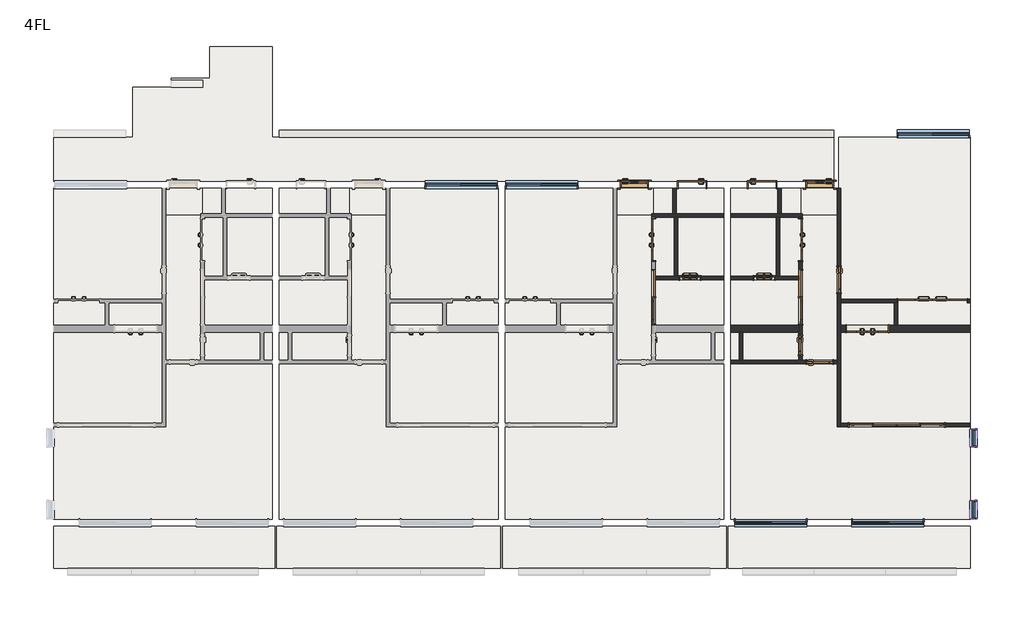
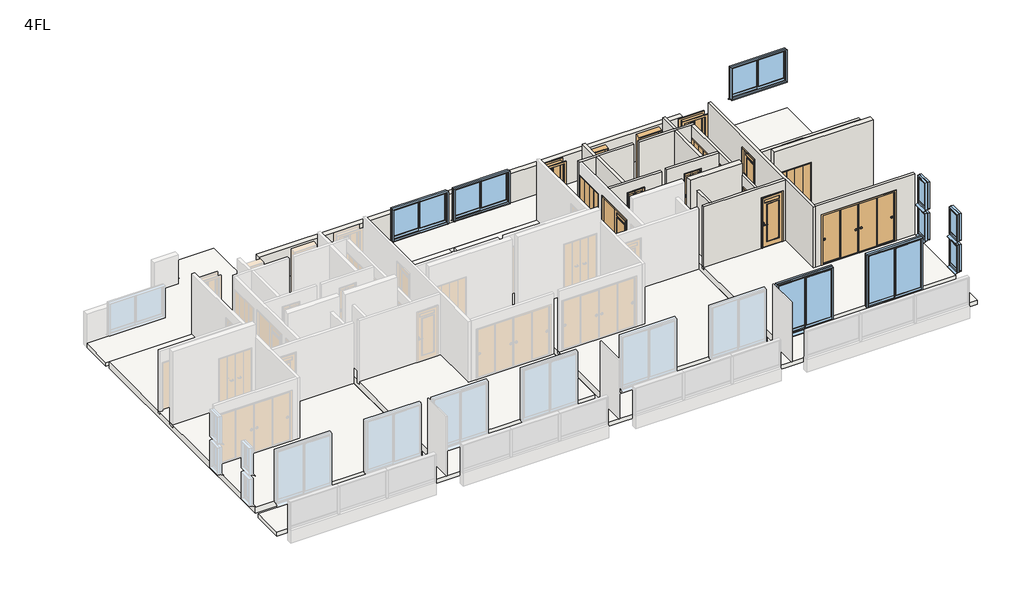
# One storey, part 3 of 3: 18 walls, 16 doors, 14 slabs, 9 windows.
"""IFC4 building model written with IfcOpenShell, lengths in millimetres."""

from ifc_helpers import new_model, si_unit, frame, origin, place, context, project, spatial, polyline, outline, extrude, faceted_brep, transform, mapped, element, save
from components import door_1200x2000_6a144d60, door_1200x2000_ebe1d490, door_1200x2000_99d19fb3, door_1600x2000_09a7ee27, door_1600x2000_1f5bdc43, door_2800x2000_04aa64cd, door_600x2000_6a266bef, door_600x2000_8ea70a65, door_600x2000_94bb9c3c, door_800x2000_a7d1584b, door_800x2000_13e9f519, door_800x2000_ccb03061, door_800x2000_010bfebf, w2000h2000_5dbb6d6a, w800h2000_1d97c4d4, w800h2000_0ab7d42c, window_2000x1200_fc91d1cf, window_2000x2000_f1ff98da, window_450x1000_e0a5e2da, window_450x1000_1cddc73c

model = new_model("IFC4")

# Units and contexts
model_context = context("Model", 3, world=origin())
ifc_project = project(units=[si_unit("LENGTHUNIT", "METRE", prefix="MILLI")], contexts=[model_context])

# Site, building, storey
site = spatial("IfcSite", under=ifc_project)
building = spatial("IfcBuilding", under=site)
storey = spatial("IfcBuildingStorey", under=building, Name="4FL", Elevation=10000.0)

# Doors
placement = place(None, origin())
door_1200x2000_shape = door_1200x2000_6a144d60(model_context)
element("IfcDoor", 1, ObjectType="木製折戸 : 1200x2000", at=placement, inside=storey, context=model_context, shape_type="MappedRepresentation", body=[
    mapped(door_1200x2000_shape, transform((6071.2812754, -7280.1171638, 10000.0), x_axis=(0.0, 1.0, 0.0), y_axis=(-1.0, 0.0, 0.0), z_axis=(0.0, 0.0, 1.0))),
])
door_1200x2000_2_shape = door_1200x2000_ebe1d490(model_context)
element("IfcDoor", 2, ObjectType="木製折戸 : 1200x2000", at=placement, inside=storey, context=model_context, shape_type="MappedRepresentation", body=[
    mapped(door_1200x2000_2_shape, transform((12183.7812754, -9820.1171638, 10100.0), x_axis=(1.0, 0.0, 0.0), y_axis=(0.0, 1.0, 0.0), z_axis=(0.0, 0.0, 1.0))),
])
door_1200x2000_3_shape = door_1200x2000_99d19fb3(model_context)
element("IfcDoor", 3, ObjectType="木製折戸 : 1200x2000", at=placement, inside=storey, context=model_context, shape_type="MappedRepresentation", body=[
    mapped(door_1200x2000_3_shape, transform((10271.2812754, -7280.1171638, 10000.0), x_axis=(0.0, 1.0, 0.0), y_axis=(-1.0, 0.0, 0.0), z_axis=(0.0, 0.0, 1.0))),
])
door_1600x2000_shape = door_1600x2000_09a7ee27(model_context)
element("IfcDoor", 4, ObjectType="片引戸CL2017 : 1600x2000", at=placement, inside=storey, context=model_context, shape_type="MappedRepresentation", body=[
    mapped(door_1600x2000_shape, transform((6071.2812754, -8920.1171638, 10100.0), x_axis=(0.0, -1.0, 0.0), y_axis=(1.0, 0.0, 0.0), z_axis=(0.0, 0.0, 1.0))),
])
door_1600x2000_2_shape = door_1600x2000_1f5bdc43(model_context)
element("IfcDoor", 5, ObjectType="片引戸CL2017 : 1600x2000", at=placement, inside=storey, context=model_context, shape_type="MappedRepresentation", body=[
    mapped(door_1600x2000_2_shape, transform((10271.2812754, -8920.1171638, 10100.0), x_axis=(0.0, -1.0, 0.0), y_axis=(1.0, 0.0, 0.0), z_axis=(0.0, 0.0, 1.0))),
])
door_2800x2000_shape = door_2800x2000_04aa64cd(model_context)
element("IfcDoor", 6, ObjectType="引違い 4 枚 2 溝_襖 : 2800x2000", at=placement, inside=storey, context=model_context, shape_type="MappedRepresentation", body=[
    mapped(door_2800x2000_shape, transform((13015.7457714, -12570.1171638, 10100.0), x_axis=(-1.0, 0.0, 0.0), y_axis=(0.0, -1.0, 0.0), z_axis=(0.0, 0.0, 1.0))),
])
door_600x2000_shape = door_600x2000_6a266bef(model_context)
element("IfcDoor", 7, ObjectType="浴室折戸 : 600x2000", at=placement, inside=storey, context=model_context, shape_type="MappedRepresentation", body=[
    mapped(door_600x2000_shape, transform((7111.2812754, -8370.1171638, 10100.0), x_axis=(1.0, 0.0, 0.0), y_axis=(0.0, 1.0, 0.0), z_axis=(0.0, 0.0, 1.0))),
])
door_600x2000_2_shape = door_600x2000_8ea70a65(model_context)
element("IfcDoor", 8, ObjectType="片開き戸CL2058 : 600x2000", at=placement, inside=storey, context=model_context, shape_type="MappedRepresentation", body=[
    mapped(door_600x2000_2_shape, transform((10271.2812754, -10295.1171638, 10100.0), x_axis=(0.0, -1.0, 0.0), y_axis=(1.0, 0.0, 0.0), z_axis=(0.0, 0.0, 1.0))),
])
door_600x2000_3_shape = door_600x2000_94bb9c3c(model_context)
element("IfcDoor", 9, ObjectType="浴室折戸 : 600x2000", at=placement, inside=storey, context=model_context, shape_type="MappedRepresentation", body=[
    mapped(door_600x2000_3_shape, transform((9231.2812754, -8370.1171638, 10100.0), x_axis=(-1.0, 0.0, 0.0), y_axis=(0.0, -1.0, 0.0), z_axis=(0.0, 0.0, 1.0))),
])
door_800x2000_shape = door_800x2000_a7d1584b(model_context)
element("IfcDoor", 10, ObjectType="片開き3 : 800x2000", at=placement, inside=storey, context=model_context, shape_type="MappedRepresentation", body=[
    mapped(door_800x2000_shape, transform((5521.2812754, -5700.1171638, 10000.0), x_axis=(1.0, 0.0, 0.0), y_axis=(0.0, 1.0, 0.0), z_axis=(0.0, 0.0, 1.0))),
])
door_800x2000_2_shape = door_800x2000_13e9f519(model_context)
element("IfcDoor", 11, ObjectType="片開き戸CL2058 : 800x2000", at=placement, inside=storey, context=model_context, shape_type="MappedRepresentation", body=[
    mapped(door_800x2000_2_shape, transform((10821.2812754, -10770.1171638, 10100.0), x_axis=(1.0, 0.0, 0.0), y_axis=(0.0, 1.0, 0.0), z_axis=(0.0, 0.0, 1.0))),
])
door_800x2000_3_shape = door_800x2000_ccb03061(model_context)
element("IfcDoor", 12, ObjectType="片開き戸CL2058 : 800x2000", at=placement, inside=storey, context=model_context, shape_type="MappedRepresentation", body=[
    mapped(door_800x2000_3_shape, transform((11371.2812754, -8420.1171638, 10100.0), x_axis=(0.0, -1.0, 0.0), y_axis=(1.0, 0.0, 0.0), z_axis=(0.0, 0.0, 1.0))),
])
door_800x2000_4_shape = door_800x2000_010bfebf(model_context)
element("IfcDoor", 13, ObjectType="片開き3 : 800x2000", at=placement, inside=storey, context=model_context, shape_type="MappedRepresentation", body=[
    mapped(door_800x2000_4_shape, transform((10821.2812754, -5700.1171638, 10000.0), x_axis=(-1.0, 0.0, 0.0), y_axis=(0.0, -1.0, 0.0), z_axis=(0.0, 0.0, 1.0))),
])
w2000h2000_shape = w2000h2000_5dbb6d6a(model_context)
element("IfcDoor", 14, ObjectType="木製折戸 : w2000h2000", at=placement, inside=storey, context=model_context, shape_type="MappedRepresentation", body=[
    mapped(w2000h2000_shape, transform((14046.2812754, -9020.1171638, 10000.0), x_axis=(-1.0, 0.0, 0.0), y_axis=(0.0, -1.0, 0.0), z_axis=(0.0, 0.0, 1.0))),
])
w800h2000_shape = w800h2000_1d97c4d4(model_context)
element("IfcDoor", 15, ObjectType="片開き : w800h2000", at=placement, inside=storey, context=model_context, shape_type="MappedRepresentation", body=[
    mapped(w800h2000_shape, transform((7171.2812754, -5700.1171638, 10000.0), x_axis=(-1.0, 0.0, 0.0), y_axis=(0.0, -1.0, 0.0), z_axis=(0.0, 0.0, 1.0))),
])
w800h2000_2_shape = w800h2000_0ab7d42c(model_context)
element("IfcDoor", 16, ObjectType="片開き : w800h2000", at=placement, inside=storey, context=model_context, shape_type="MappedRepresentation", body=[
    mapped(w800h2000_2_shape, transform((9171.2812754, -5700.1171638, 10000.0), x_axis=(1.0, 0.0, 0.0), y_axis=(0.0, 1.0, 0.0), z_axis=(0.0, 0.0, 1.0))),
])

# Slabs
element("IfcSlab", 17, ObjectType="RC150＋100", at=placement, inside=storey, context=model_context, shape_type="SweptSolid", body=[
    extrude(outline(polyline([(-4828.7187246, -15270.1171638), (-11078.7187246, -15270.1171638), (-11078.7187246, -5800.1171638), (-7928.7187246, -5800.1171638), (-7928.7187246, -6580.1171638), (-6828.7187246, -6580.1171638), (-6828.7187246, -5800.1171638), (-4828.7187246, -5800.1171638), (-4828.7187246, -6580.1171638), (-6188.7187246, -6580.1171638), (-6188.7187246, -8370.1171638), (-4828.7187246, -8370.1171638), (-4828.7187246, -15270.1171638)])), frame((0.0, 0.0, 9850.0), z_axis=(0.0, 0.0, 1.0), x_axis=(1.0, 0.0, 0.0)), (0.0, 0.0, 1.0), 250.0),
])
element("IfcSlab", 18, ObjectType="RC150＋100", at=placement, inside=storey, context=model_context, shape_type="SweptSolid", body=[
    extrude(outline(polyline([(-4628.7187246, -15270.1171638), (-4628.7187246, -8370.1171638), (-3268.7187246, -8370.1171638), (-3268.7187246, -6580.1171638), (-4628.7187246, -6580.1171638), (-4628.7187246, -5800.1171638), (-2628.7187246, -5800.1171638), (-2628.7187246, -6580.1171638), (-1528.7187246, -6580.1171638), (-1528.7187246, -5800.1171638), (1621.2812754, -5800.1171638), (1621.2812754, -15270.1171638), (-4628.7187246, -15270.1171638)])), frame((0.0, 0.0, 9850.0), z_axis=(0.0, 0.0, 1.0), x_axis=(1.0, 0.0, 0.0)), (0.0, 0.0, 1.0), 250.0),
])
element("IfcSlab", 19, ObjectType="RC150＋100", at=placement, inside=storey, context=model_context, shape_type="SweptSolid", body=[
    extrude(outline(polyline([(8071.2812754, -15270.1171638), (1821.2812754, -15270.1171638), (1821.2812754, -5800.1171638), (4971.2812754, -5800.1171638), (4971.2812754, -6580.1171638), (6071.2812754, -6580.1171638), (6071.2812754, -5800.1171638), (8071.2812754, -5800.1171638), (8071.2812754, -6580.1171638), (6711.2812754, -6580.1171638), (6711.2812754, -8370.1171638), (8071.2812754, -8370.1171638), (8071.2812754, -15270.1171638)])), frame((0.0, 0.0, 9850.0), z_axis=(0.0, 0.0, 1.0), x_axis=(1.0, 0.0, 0.0)), (0.0, 0.0, 1.0), 250.0),
])
element("IfcSlab", 20, ObjectType="RC150＋100", at=placement, inside=storey, context=model_context, shape_type="SweptSolid", body=[
    extrude(outline(polyline([(8271.2812754, -15270.1171638), (8271.2812754, -8370.1171638), (9631.2812754, -8370.1171638), (9631.2812754, -6580.1171638), (8271.2812754, -6580.1171638), (8271.2812754, -5800.1171638), (10271.2812754, -5800.1171638), (10271.2812754, -6580.1171638), (11371.2812754, -6580.1171638), (11371.2812754, -4350.1171638), (15121.2812754, -4350.1171638), (15121.2812754, -15270.1171638), (8271.2812754, -15270.1171638)])), frame((0.0, 0.0, 9850.0), z_axis=(0.0, 0.0, 1.0), x_axis=(1.0, 0.0, 0.0)), (0.0, 0.0, 1.0), 250.0),
])
element("IfcSlab", 21, ObjectType="RC150", at=placement, inside=storey, context=model_context, shape_type="SweptSolid", body=[
    extrude(outline(polyline([(-4828.7187246, -8370.1171638), (-6188.7187246, -8370.1171638), (-6188.7187246, -6580.1171638), (-4828.7187246, -6580.1171638), (-4828.7187246, -8370.1171638)])), frame((0.0, 0.0, 9850.0), z_axis=(0.0, 0.0, 1.0), x_axis=(1.0, 0.0, 0.0)), (0.0, 0.0, 1.0), 150.0),
])
element("IfcSlab", 22, ObjectType="RC150", at=placement, inside=storey, context=model_context, shape_type="SweptSolid", body=[
    extrude(outline(polyline([(-6828.7187246, -6580.1171638), (-7928.7187246, -6580.1171638), (-7928.7187246, -5800.1171638), (-6828.7187246, -5800.1171638), (-6828.7187246, -6580.1171638)])), frame((0.0, 0.0, 9800.0), z_axis=(0.0, 0.0, 1.0), x_axis=(1.0, 0.0, 0.0)), (0.0, 0.0, 1.0), 150.0),
])
element("IfcSlab", 23, ObjectType="RC150", at=placement, inside=storey, context=model_context, shape_type="SweptSolid", body=[
    extrude(outline(polyline([(-4628.7187246, -8370.1171638), (-4628.7187246, -6580.1171638), (-3268.7187246, -6580.1171638), (-3268.7187246, -8370.1171638), (-4628.7187246, -8370.1171638)])), frame((0.0, 0.0, 9850.0), z_axis=(0.0, 0.0, 1.0), x_axis=(1.0, 0.0, 0.0)), (0.0, 0.0, 1.0), 150.0),
])
element("IfcSlab", 24, ObjectType="RC150", at=placement, inside=storey, context=model_context, shape_type="SweptSolid", body=[
    extrude(outline(polyline([(-2628.7187246, -6580.1171638), (-2628.7187246, -5800.1171638), (-1528.7187246, -5800.1171638), (-1528.7187246, -6580.1171638), (-2628.7187246, -6580.1171638)])), frame((0.0, 0.0, 9800.0), z_axis=(0.0, 0.0, 1.0), x_axis=(1.0, 0.0, 0.0)), (0.0, 0.0, 1.0), 150.0),
])
element("IfcSlab", 25, ObjectType="RC150", at=placement, inside=storey, context=model_context, shape_type="SweptSolid", body=[
    extrude(outline(polyline([(8071.2812754, -8370.1171638), (6711.2812754, -8370.1171638), (6711.2812754, -6580.1171638), (8071.2812754, -6580.1171638), (8071.2812754, -8370.1171638)])), frame((0.0, 0.0, 9850.0), z_axis=(0.0, 0.0, 1.0), x_axis=(1.0, 0.0, 0.0)), (0.0, 0.0, 1.0), 150.0),
])
element("IfcSlab", 26, ObjectType="RC150", at=placement, inside=storey, context=model_context, shape_type="SweptSolid", body=[
    extrude(outline(polyline([(6071.2812754, -6580.1171638), (4971.2812754, -6580.1171638), (4971.2812754, -5800.1171638), (6071.2812754, -5800.1171638), (6071.2812754, -6580.1171638)])), frame((0.0, 0.0, 9800.0), z_axis=(0.0, 0.0, 1.0), x_axis=(1.0, 0.0, 0.0)), (0.0, 0.0, 1.0), 150.0),
])
element("IfcSlab", 27, ObjectType="RC150", at=placement, inside=storey, context=model_context, shape_type="SweptSolid", body=[
    extrude(outline(polyline([(8271.2812754, -8370.1171638), (8271.2812754, -6580.1171638), (9631.2812754, -6580.1171638), (9631.2812754, -8370.1171638), (8271.2812754, -8370.1171638)])), frame((0.0, 0.0, 9850.0), z_axis=(0.0, 0.0, 1.0), x_axis=(1.0, 0.0, 0.0)), (0.0, 0.0, 1.0), 150.0),
])
element("IfcSlab", 28, ObjectType="RC150", at=placement, inside=storey, context=model_context, shape_type="SweptSolid", body=[
    extrude(outline(polyline([(10271.2812754, -6580.1171638), (10271.2812754, -5800.1171638), (11371.2812754, -5800.1171638), (11371.2812754, -6580.1171638), (10271.2812754, -6580.1171638)])), frame((0.0, 0.0, 9800.0), z_axis=(0.0, 0.0, 1.0), x_axis=(1.0, 0.0, 0.0)), (0.0, 0.0, 1.0), 150.0),
])
element("IfcSlab", 29, ObjectType="RC150", at=placement, inside=storey, context=model_context, shape_type="SweptSolid", body=[
    extrude(outline(polyline([(15121.2812754, -15470.1171638), (15121.2812754, -16670.1171638), (-11078.7187246, -16670.1171638), (-11078.7187246, -15470.1171638), (15121.2812754, -15470.1171638)])), frame((0.0, 0.0, 9800.0), z_axis=(0.0, 0.0, 1.0), x_axis=(1.0, 0.0, 0.0)), (0.0, 0.0, 1.0), 150.0),
])
element("IfcSlab", 30, ObjectType="RC150", at=placement, inside=storey, context=model_context, shape_type="SweptSolid", body=[
    extrude(outline(polyline([(-8828.7187246, -4350.1171638), (-8828.7187246, -2920.1171638), (-7728.7187246, -2920.1171638), (-7728.7187246, -2660.1171638), (-6628.7187246, -2660.1171638), (-6628.7187246, -1750.1171638), (-4828.7187246, -1750.1171638), (-4828.7187246, -4350.1171638), (11221.2812754, -4350.1171638), (11221.2812754, -5600.1171638), (-11078.7187246, -5600.1171638), (-11078.7187246, -4350.1171638), (-8828.7187246, -4350.1171638)])), frame((0.0, 0.0, 9800.0), z_axis=(0.0, 0.0, 1.0), x_axis=(1.0, 0.0, 0.0)), (0.0, 0.0, 1.0), 150.0),
])

# Walls
element("IfcWall", 31, ObjectType="(R)RC200", at=placement, inside=storey, context=model_context, shape_type="Brep", body=[
    faceted_brep([(15121.2812754, -9720.1171638, 10000.0), (13046.2812754, -9720.1171638, 10000.0), (12946.2812754, -9720.1171638, 10000.0), (11421.2812754, -9720.1171638, 10000.0), (11421.2812754, -9720.1171638, 13000.0), (15121.2812754, -9720.1171638, 13000.0), (12803.7812754, -9720.1171638, 12120.0), (11563.7812754, -9720.1171638, 12120.0), (11563.7812754, -9720.1171638, 10100.0), (12803.7812754, -9720.1171638, 10100.0), (15121.2812754, -9920.1171638, 10000.0), (15121.2812754, -9920.1171638, 13000.0), (11421.2812754, -9920.1171638, 13000.0), (11421.2812754, -9920.1171638, 10000.0), (12803.7812754, -9920.1171638, 12120.0), (12803.7812754, -9920.1171638, 10100.0), (11563.7812754, -9920.1171638, 10100.0), (11563.7812754, -9920.1171638, 12120.0)], [[[0, 1, 2, 3, 4, 5], [6, 7, 8, 9]], [[10, 11, 12, 13], [14, 15, 16, 17]], [[3, 2, 1, 0, 10, 13]], [[5, 4, 12, 11]], [[4, 3, 13, 12]], [[15, 14, 6, 9]], [[16, 15, 9, 8]], [[17, 16, 8, 7]], [[14, 17, 7, 6]], [[0, 5, 11, 10]]]),
])
element("IfcWall", 32, ObjectType="(R)RC200", at=placement, inside=storey, context=model_context, shape_type="Brep", body=[
    faceted_brep([(10221.2812754, -9720.1171638, 10000.0), (8271.2812754, -9720.1171638, 10000.0), (8271.2812754, -9720.1171638, 13000.0), (10221.2812754, -9720.1171638, 13000.0), (10221.2812754, -9720.1171638, 12100.0), (10221.2812754, -9720.1171638, 10100.0), (10221.2812754, -9920.1171638, 10000.0), (10221.2812754, -9920.1171638, 13000.0), (8271.2812754, -9920.1171638, 13000.0), (8271.2812754, -9920.1171638, 10000.0), (8521.2812754, -9920.1171638, 10000.0), (8621.2812754, -9920.1171638, 10000.0)], [[[0, 1, 2, 3, 4, 5]], [[6, 7, 8, 9, 10, 11]], [[1, 0, 6, 11, 10, 9]], [[3, 2, 8, 7]], [[0, 5, 4, 3, 7, 6]], [[2, 1, 9, 8]]]),
])
element("IfcWall", 33, ObjectType="(R)RC200", at=placement, inside=storey, context=model_context, shape_type="SweptSolid", body=[
    extrude(outline(polyline([(11221.2812754, -4350.1171638), (-4628.7187246, -4350.1171638), (-4628.7187246, -4150.1171638), (11221.2812754, -4150.1171638), (11221.2812754, -4350.1171638)])), frame((0.0, 0.0, 9800.0), z_axis=(0.0, 0.0, 1.0), x_axis=(1.0, 0.0, 0.0)), (0.0, 0.0, 1.0), 1300.0),
])
element("IfcWall", 34, ObjectType="(L1)LGS100", at=placement, inside=storey, context=model_context, shape_type="Brep", body=[
    faceted_brep([(6021.2812754, -6630.1171638, 10000.0), (6121.2812754, -6630.1171638, 10000.0), (6661.2812754, -6630.1171638, 10000.0), (6761.2812754, -6630.1171638, 10000.0), (8071.2812754, -6630.1171638, 10000.0), (8071.2812754, -6630.1171638, 12500.0), (6761.2812754, -6630.1171638, 12500.0), (6661.2812754, -6630.1171638, 12500.0), (6121.2812754, -6630.1171638, 12500.0), (6021.2812754, -6630.1171638, 12500.0), (6021.2812754, -6530.1171638, 10000.0), (6021.2812754, -6530.1171638, 12500.0), (6621.2812754, -6530.1171638, 12500.0), (6721.2812754, -6530.1171638, 12500.0), (8071.2812754, -6530.1171638, 12500.0), (8071.2812754, -6530.1171638, 10000.0), (6721.2812754, -6530.1171638, 10000.0), (6621.2812754, -6530.1171638, 10000.0)], [[[0, 1, 2, 3, 4, 5, 6, 7, 8, 9]], [[10, 11, 12, 13, 14, 15, 16, 17]], [[4, 3, 2, 1, 0, 10, 17, 16, 15]], [[9, 8, 7, 6, 5, 14, 13, 12, 11]], [[0, 9, 11, 10]], [[5, 4, 15, 14]]]),
])
element("IfcWall", 35, ObjectType="(L1)LGS100", at=placement, inside=storey, context=model_context, shape_type="SweptSolid", body=[
    extrude(outline(polyline([(6721.2812754, -5800.1171638), (6721.2812754, -6530.1171638), (6621.2812754, -6530.1171638), (6621.2812754, -5800.1171638), (6721.2812754, -5800.1171638)])), frame((0.0, 0.0, 10000.0), z_axis=(0.0, 0.0, 1.0), x_axis=(1.0, 0.0, 0.0)), (0.0, 0.0, 1.0), 2500.0),
])
element("IfcWall", 36, ObjectType="(L1)LGS100", at=placement, inside=storey, context=model_context, shape_type="SweptSolid", body=[
    extrude(outline(polyline([(6761.2812754, -6630.1171638), (6761.2812754, -8320.1171638), (6661.2812754, -8320.1171638), (6661.2812754, -6630.1171638), (6761.2812754, -6630.1171638)])), frame((0.0, 0.0, 10000.0), z_axis=(0.0, 0.0, 1.0), x_axis=(1.0, 0.0, 0.0)), (0.0, 0.0, 1.0), 2500.0),
])
element("IfcWall", 37, ObjectType="(L1)LGS100", at=placement, inside=storey, context=model_context, shape_type="Brep", body=[
    faceted_brep([(6121.2812754, -8420.1171638, 10000.0), (8071.2812754, -8420.1171638, 10000.0), (8071.2812754, -8420.1171638, 12500.0), (6121.2812754, -8420.1171638, 12500.0), (7431.2812754, -8420.1171638, 12120.0), (7431.2812754, -8420.1171638, 10100.0), (6791.2812754, -8420.1171638, 10100.0), (6791.2812754, -8420.1171638, 12120.0), (6121.2812754, -8320.1171638, 10000.0), (6121.2812754, -8320.1171638, 12500.0), (6661.2812754, -8320.1171638, 12500.0), (6761.2812754, -8320.1171638, 12500.0), (8071.2812754, -8320.1171638, 12500.0), (8071.2812754, -8320.1171638, 10000.0), (6761.2812754, -8320.1171638, 10000.0), (6661.2812754, -8320.1171638, 10000.0), (7431.2812754, -8320.1171638, 12120.0), (6791.2812754, -8320.1171638, 12120.0), (6791.2812754, -8320.1171638, 10100.0), (7431.2812754, -8320.1171638, 10100.0)], [[[0, 1, 2, 3], [4, 5, 6, 7]], [[8, 9, 10, 11, 12, 13, 14, 15], [16, 17, 18, 19]], [[1, 0, 8, 15, 14, 13]], [[3, 2, 12, 11, 10, 9]], [[5, 4, 16, 19]], [[6, 5, 19, 18]], [[7, 6, 18, 17]], [[4, 7, 17, 16]], [[0, 3, 9, 8]], [[2, 1, 13, 12]]]),
])
element("IfcWall", 38, ObjectType="(L1)LGS100", at=placement, inside=storey, context=model_context, shape_type="Brep", body=[
    faceted_brep([(11421.2812754, -12620.1171638, 10000.0), (11421.2812754, -12520.1171638, 10000.0), (11421.2812754, -9920.1171638, 10000.0), (11421.2812754, -9720.1171638, 10000.0), (11421.2812754, -9070.1171638, 10000.0), (11421.2812754, -8970.1171638, 10000.0), (11421.2812754, -5800.1171638, 10000.0), (11421.2812754, -5800.1171638, 12500.0), (11421.2812754, -8970.1171638, 12500.0), (11421.2812754, -9070.1171638, 12500.0), (11421.2812754, -12520.1171638, 12500.0), (11421.2812754, -12620.1171638, 12500.0), (11421.2812754, -8820.1171638, 10100.0), (11421.2812754, -8820.1171638, 12100.0), (11421.2812754, -8020.1171638, 12100.0), (11421.2812754, -8020.1171638, 10100.0), (11321.2812754, -12620.1171638, 10000.0), (11321.2812754, -12620.1171638, 12500.0), (11321.2812754, -10820.1171638, 12500.0), (11321.2812754, -10720.1171638, 12500.0), (11321.2812754, -5800.1171638, 12500.0), (11321.2812754, -5800.1171638, 10000.0), (11321.2812754, -10720.1171638, 10000.0), (11321.2812754, -10820.1171638, 10000.0), (11321.2812754, -8820.1171638, 10100.0), (11321.2812754, -8020.1171638, 10100.0), (11321.2812754, -8020.1171638, 12100.0), (11321.2812754, -8820.1171638, 12100.0)], [[[0, 1, 2, 3, 4, 5, 6, 7, 8, 9, 10, 11], [12, 13, 14, 15]], [[16, 17, 18, 19, 20, 21, 22, 23], [24, 25, 26, 27]], [[6, 5, 4, 3, 2, 1, 0, 16, 23, 22, 21]], [[11, 10, 9, 8, 7, 20, 19, 18, 17]], [[0, 11, 17, 16]], [[13, 12, 24, 27]], [[14, 13, 27, 26]], [[15, 14, 26, 25]], [[12, 15, 25, 24]], [[7, 6, 21, 20]]]),
])
element("IfcWall", 39, ObjectType="(L1)LGS100", at=placement, inside=storey, context=model_context, shape_type="Brep", body=[
    faceted_brep([(10321.2812754, -6630.1171638, 12500.0), (10321.2812754, -10720.1171638, 12500.0), (10321.2812754, -10720.1171638, 10000.0), (10321.2812754, -7900.1171638, 10000.0), (10321.2812754, -7900.1171638, 12020.0), (10321.2812754, -6660.1171638, 12020.0), (10321.2812754, -6660.1171638, 10000.0), (10321.2812754, -6630.1171638, 10000.0), (10321.2812754, -10595.1171638, 10100.0), (10321.2812754, -10595.1171638, 12100.0), (10321.2812754, -9995.1171638, 12100.0), (10321.2812754, -9995.1171638, 10100.0), (10321.2812754, -9720.1171638, 10100.0), (10321.2812754, -9720.1171638, 12100.0), (10321.2812754, -8120.1171638, 12100.0), (10321.2812754, -8120.1171638, 10100.0), (10221.2812754, -10720.1171638, 12500.0), (10221.2812754, -8420.1171638, 12500.0), (10221.2812754, -8320.1171638, 12500.0), (10221.2812754, -6630.1171638, 12500.0), (10221.2812754, -6630.1171638, 10000.0), (10221.2812754, -6660.1171638, 10000.0), (10221.2812754, -6660.1171638, 12020.0), (10221.2812754, -7900.1171638, 12020.0), (10221.2812754, -7900.1171638, 10000.0), (10221.2812754, -8320.1171638, 10000.0), (10221.2812754, -8420.1171638, 10000.0), (10221.2812754, -9720.1171638, 10000.0), (10221.2812754, -9920.1171638, 10000.0), (10221.2812754, -10720.1171638, 10000.0), (10221.2812754, -10595.1171638, 10100.0), (10221.2812754, -9995.1171638, 10100.0), (10221.2812754, -9995.1171638, 12100.0), (10221.2812754, -10595.1171638, 12100.0), (10221.2812754, -9720.1171638, 12100.0), (10221.2812754, -9720.1171638, 10100.0), (10221.2812754, -8120.1171638, 10100.0), (10221.2812754, -8120.1171638, 12100.0)], [[[0, 1, 2, 3, 4, 5, 6, 7], [8, 9, 10, 11], [12, 13, 14, 15]], [[16, 17, 18, 19, 20, 21, 22, 23, 24, 25, 26, 27, 28, 29], [30, 31, 32, 33], [34, 35, 36, 37]], [[2, 29, 28, 27, 26, 25, 24, 3]], [[20, 7, 6, 21]], [[1, 0, 19, 18, 17, 16]], [[2, 1, 16, 29]], [[0, 7, 20, 19]], [[9, 8, 30, 33]], [[10, 9, 33, 32]], [[11, 10, 32, 31]], [[8, 11, 31, 30]], [[12, 35, 34, 13]], [[13, 34, 37, 14]], [[14, 37, 36, 15]], [[35, 12, 15, 36]], [[6, 5, 22, 21]], [[4, 3, 24, 23]], [[5, 4, 23, 22]]]),
])
element("IfcWall", 40, ObjectType="(L1)LGS100", at=placement, inside=storey, context=model_context, shape_type="Brep", body=[
    faceted_brep([(10321.2812754, -6530.1171638, 10000.0), (9721.2812754, -6530.1171638, 10000.0), (9621.2812754, -6530.1171638, 10000.0), (8271.2812754, -6530.1171638, 10000.0), (8271.2812754, -6530.1171638, 12500.0), (9621.2812754, -6530.1171638, 12500.0), (9721.2812754, -6530.1171638, 12500.0), (10321.2812754, -6530.1171638, 12500.0), (10321.2812754, -6630.1171638, 10000.0), (10321.2812754, -6630.1171638, 12500.0), (10221.2812754, -6630.1171638, 12500.0), (9681.2812754, -6630.1171638, 12500.0), (9581.2812754, -6630.1171638, 12500.0), (8271.2812754, -6630.1171638, 12500.0), (8271.2812754, -6630.1171638, 10000.0), (9581.2812754, -6630.1171638, 10000.0), (9681.2812754, -6630.1171638, 10000.0), (10221.2812754, -6630.1171638, 10000.0)], [[[0, 1, 2, 3, 4, 5, 6, 7]], [[8, 9, 10, 11, 12, 13, 14, 15, 16, 17]], [[3, 2, 1, 0, 8, 17, 16, 15, 14]], [[7, 6, 5, 4, 13, 12, 11, 10, 9]], [[0, 7, 9, 8]], [[4, 3, 14, 13]]]),
])
element("IfcWall", 41, ObjectType="(L1)LGS100", at=placement, inside=storey, context=model_context, shape_type="SweptSolid", body=[
    extrude(outline(polyline([(9721.2812754, -5800.1171638), (9721.2812754, -6530.1171638), (9621.2812754, -6530.1171638), (9621.2812754, -5800.1171638), (9721.2812754, -5800.1171638)])), frame((0.0, 0.0, 10000.0), z_axis=(0.0, 0.0, 1.0), x_axis=(1.0, 0.0, 0.0)), (0.0, 0.0, 1.0), 2500.0),
])
element("IfcWall", 42, ObjectType="(L1)LGS100", at=placement, inside=storey, context=model_context, shape_type="SweptSolid", body=[
    extrude(outline(polyline([(9681.2812754, -6630.1171638), (9681.2812754, -8320.1171638), (9581.2812754, -8320.1171638), (9581.2812754, -6630.1171638), (9681.2812754, -6630.1171638)])), frame((0.0, 0.0, 10000.0), z_axis=(0.0, 0.0, 1.0), x_axis=(1.0, 0.0, 0.0)), (0.0, 0.0, 1.0), 2500.0),
])
element("IfcWall", 43, ObjectType="(L1)LGS100", at=placement, inside=storey, context=model_context, shape_type="Brep", body=[
    faceted_brep([(10221.2812754, -8320.1171638, 10000.0), (9681.2812754, -8320.1171638, 10000.0), (9581.2812754, -8320.1171638, 10000.0), (8271.2812754, -8320.1171638, 10000.0), (8271.2812754, -8320.1171638, 12500.0), (9581.2812754, -8320.1171638, 12500.0), (9681.2812754, -8320.1171638, 12500.0), (10221.2812754, -8320.1171638, 12500.0), (8911.2812754, -8320.1171638, 12120.0), (8911.2812754, -8320.1171638, 10100.0), (9551.2812754, -8320.1171638, 10100.0), (9551.2812754, -8320.1171638, 12120.0), (10221.2812754, -8420.1171638, 10000.0), (10221.2812754, -8420.1171638, 12500.0), (8271.2812754, -8420.1171638, 12500.0), (8271.2812754, -8420.1171638, 10000.0), (8911.2812754, -8420.1171638, 12120.0), (9551.2812754, -8420.1171638, 12120.0), (9551.2812754, -8420.1171638, 10100.0), (8911.2812754, -8420.1171638, 10100.0)], [[[0, 1, 2, 3, 4, 5, 6, 7], [8, 9, 10, 11]], [[12, 13, 14, 15], [16, 17, 18, 19]], [[3, 2, 1, 0, 12, 15]], [[7, 6, 5, 4, 14, 13]], [[0, 7, 13, 12]], [[9, 8, 16, 19]], [[10, 9, 19, 18]], [[11, 10, 18, 17]], [[8, 11, 17, 16]], [[4, 3, 15, 14]]]),
])
element("IfcWall", 44, ObjectType="(L1)LGS100", at=placement, inside=storey, context=model_context, shape_type="Brep", body=[
    faceted_brep([(11321.2812754, -10720.1171638, 10000.0), (10321.2812754, -10720.1171638, 10000.0), (10221.2812754, -10720.1171638, 10000.0), (8621.2812754, -10720.1171638, 10000.0), (8521.2812754, -10720.1171638, 10000.0), (8271.2812754, -10720.1171638, 10000.0), (8271.2812754, -10720.1171638, 12500.0), (8521.2812754, -10720.1171638, 12500.0), (8621.2812754, -10720.1171638, 12500.0), (10221.2812754, -10720.1171638, 12500.0), (10321.2812754, -10720.1171638, 12500.0), (11321.2812754, -10720.1171638, 12500.0), (11221.2812754, -10720.1171638, 10100.0), (11221.2812754, -10720.1171638, 12100.0), (10421.2812754, -10720.1171638, 12100.0), (10421.2812754, -10720.1171638, 10100.0), (11321.2812754, -10820.1171638, 10000.0), (11321.2812754, -10820.1171638, 12500.0), (8271.2812754, -10820.1171638, 12500.0), (8271.2812754, -10820.1171638, 10000.0), (11221.2812754, -10820.1171638, 10100.0), (10421.2812754, -10820.1171638, 10100.0), (10421.2812754, -10820.1171638, 12100.0), (11221.2812754, -10820.1171638, 12100.0)], [[[0, 1, 2, 3, 4, 5, 6, 7, 8, 9, 10, 11], [12, 13, 14, 15]], [[16, 17, 18, 19], [20, 21, 22, 23]], [[5, 4, 3, 2, 1, 0, 16, 19]], [[11, 10, 9, 8, 7, 6, 18, 17]], [[0, 11, 17, 16]], [[13, 12, 20, 23]], [[14, 13, 23, 22]], [[15, 14, 22, 21]], [[12, 15, 21, 20]], [[6, 5, 19, 18]]]),
])
element("IfcWall", 45, ObjectType="(L1)LGS100", at=placement, inside=storey, context=model_context, shape_type="SweptSolid", body=[
    extrude(outline(polyline([(8621.2812754, -9920.1171638), (8621.2812754, -10720.1171638), (8521.2812754, -10720.1171638), (8521.2812754, -9920.1171638), (8621.2812754, -9920.1171638)])), frame((0.0, 0.0, 10000.0), z_axis=(0.0, 0.0, 1.0), x_axis=(1.0, 0.0, 0.0)), (0.0, 0.0, 1.0), 2500.0),
])
element("IfcWall", 46, ObjectType="(L1)LGS100", at=placement, inside=storey, context=model_context, shape_type="Brep", body=[
    faceted_brep([(15121.2812754, -8970.1171638, 10000.0), (15066.2812754, -8970.1171638, 10000.0), (15066.2812754, -8970.1171638, 12020.0), (13026.2812754, -8970.1171638, 12020.0), (13026.2812754, -8970.1171638, 10000.0), (11421.2812754, -8970.1171638, 10000.0), (11421.2812754, -8970.1171638, 12500.0), (15121.2812754, -8970.1171638, 12500.0), (15066.2812754, -9070.1171638, 12020.0), (15066.2812754, -9070.1171638, 10000.0), (15121.2812754, -9070.1171638, 10000.0), (15121.2812754, -9070.1171638, 12500.0), (13046.2812754, -9070.1171638, 12500.0), (12946.2812754, -9070.1171638, 12500.0), (11421.2812754, -9070.1171638, 12500.0), (11421.2812754, -9070.1171638, 10000.0), (12946.2812754, -9070.1171638, 10000.0), (13026.2812754, -9070.1171638, 10000.0), (13026.2812754, -9070.1171638, 12020.0)], [[[0, 1, 2, 3, 4, 5, 6, 7]], [[8, 9, 10, 11, 12, 13, 14, 15, 16, 17, 18]], [[10, 9, 1, 0]], [[17, 16, 15, 5, 4]], [[7, 6, 14, 13, 12, 11]], [[6, 5, 15, 14]], [[4, 3, 18, 17]], [[2, 1, 9, 8]], [[3, 2, 8, 18]], [[0, 7, 11, 10]]]),
])
element("IfcWall", 47, ObjectType="(L1)LGS100", at=placement, inside=storey, context=model_context, shape_type="Brep", body=[
    faceted_brep([(13046.2812754, -9720.1171638, 10000.0), (13046.2812754, -9070.1171638, 10000.0), (13046.2812754, -9070.1171638, 12500.0), (13046.2812754, -9720.1171638, 12500.0), (12946.2812754, -9720.1171638, 10000.0), (12946.2812754, -9720.1171638, 12500.0), (12946.2812754, -9070.1171638, 12500.0), (12946.2812754, -9070.1171638, 10000.0), (13026.2812754, -9070.1171638, 10000.0)], [[[0, 1, 2, 3]], [[4, 5, 6, 7]], [[1, 0, 4, 7, 8]], [[3, 2, 6, 5]], [[0, 3, 5, 4]], [[2, 1, 8, 7, 6]]]),
])
element("IfcWall", 48, ObjectType="(L1)LGS100", at=placement, inside=storey, context=model_context, shape_type="SweptSolid", body=[
    extrude(outline(polyline([(10000.0, 15121.2812754), (12500.0, 15121.2812754), (12500.0, 11421.2812754), (10000.0, 11421.2812754), (10000.0, 15121.2812754)]), holes=[polyline([(12100.0, 11621.2812754), (12100.0, 14421.2812754), (10100.0, 14421.2812754), (10100.0, 11621.2812754), (12100.0, 11621.2812754)])]), frame((0.0, -12620.1171638, 0.0), z_axis=(0.0, 1.0, 0.0), x_axis=(0.0, 0.0, 1.0)), (0.0, 0.0, 1.0), 100.0),
])

# Windows
window_2000x1200_shape = window_2000x1200_fc91d1cf(model_context)
element("IfcWindow", 49, ObjectType="鋼製_一般枠_引違い-二枚 : 2000x1200", at=placement, inside=storey, context=model_context, shape_type="MappedRepresentation", body=[
    mapped(window_2000x1200_shape, transform((571.2812754, -5700.1171638, 10250.0), x_axis=(1.0, 0.0, 0.0), y_axis=(0.0, 1.0, 0.0), z_axis=(0.0, 0.0, 1.0))),
])
element("IfcWindow", 50, ObjectType="鋼製_一般枠_引違い-二枚 : 2000x1200", at=placement, inside=storey, context=model_context, shape_type="MappedRepresentation", body=[
    mapped(window_2000x1200_shape, transform((2871.2812754, -5700.1171638, 10250.0), x_axis=(1.0, 0.0, 0.0), y_axis=(0.0, 1.0, 0.0), z_axis=(0.0, 0.0, 1.0))),
])
element("IfcWindow", 51, ObjectType="鋼製_一般枠_引違い-二枚 : 2000x1200", at=placement, inside=storey, context=model_context, shape_type="MappedRepresentation", body=[
    mapped(window_2000x1200_shape, transform((14071.2812754, -4250.1171638, 10250.0), x_axis=(1.0, 0.0, 0.0), y_axis=(0.0, 1.0, 0.0), z_axis=(0.0, 0.0, 1.0))),
])
window_2000x2000_shape = window_2000x2000_f1ff98da(model_context)
element("IfcWindow", 52, ObjectType="鋼製_一般枠_引違い-二枚 : 2000x2000", at=placement, inside=storey, context=model_context, shape_type="MappedRepresentation", body=[
    mapped(window_2000x2000_shape, transform((12771.2812754, -15370.1171638, 9200.0), x_axis=(-1.0, 0.0, 0.0), y_axis=(0.0, -1.0, 0.0), z_axis=(0.0, 0.0, 1.0))),
])
element("IfcWindow", 53, ObjectType="鋼製_一般枠_引違い-二枚 : 2000x2000", at=placement, inside=storey, context=model_context, shape_type="MappedRepresentation", body=[
    mapped(window_2000x2000_shape, transform((9421.2812754, -15370.1171638, 9200.0), x_axis=(-1.0, 0.0, 0.0), y_axis=(0.0, -1.0, 0.0), z_axis=(0.0, 0.0, 1.0))),
])
window_450x1000_shape = window_450x1000_e0a5e2da(model_context)
element("IfcWindow", 54, ObjectType="鋼製_一般枠_嵌殺し : 450x1000", at=placement, inside=storey, context=model_context, shape_type="MappedRepresentation", body=[
    mapped(window_450x1000_shape, transform((15221.2812754, -14995.1171638, 10230.0), x_axis=(0.0, 1.0, 0.0), y_axis=(-1.0, 0.0, 0.0), z_axis=(0.0, 0.0, 1.0))),
])
element("IfcWindow", 55, ObjectType="鋼製_一般枠_嵌殺し : 450x1000", at=placement, inside=storey, context=model_context, shape_type="MappedRepresentation", body=[
    mapped(window_450x1000_shape, transform((15221.2812754, -12945.1171638, 10230.0), x_axis=(0.0, 1.0, 0.0), y_axis=(-1.0, 0.0, 0.0), z_axis=(0.0, 0.0, 1.0))),
])
window_450x1000_2_shape = window_450x1000_1cddc73c(model_context)
element("IfcWindow", 56, ObjectType="鋼製_一般枠_嵌殺し : 450x1000", at=placement, inside=storey, context=model_context, shape_type="MappedRepresentation", body=[
    mapped(window_450x1000_2_shape, transform((15221.2812754, -14995.1171638, 9010.0), x_axis=(0.0, -1.0, 0.0), y_axis=(1.0, 0.0, 0.0), z_axis=(0.0, 0.0, 1.0))),
])
element("IfcWindow", 57, ObjectType="鋼製_一般枠_嵌殺し : 450x1000", at=placement, inside=storey, context=model_context, shape_type="MappedRepresentation", body=[
    mapped(window_450x1000_2_shape, transform((15221.2812754, -12945.1171638, 9010.0), x_axis=(0.0, -1.0, 0.0), y_axis=(1.0, 0.0, 0.0), z_axis=(0.0, 0.0, 1.0))),
])

save(model, "model.ifc")
